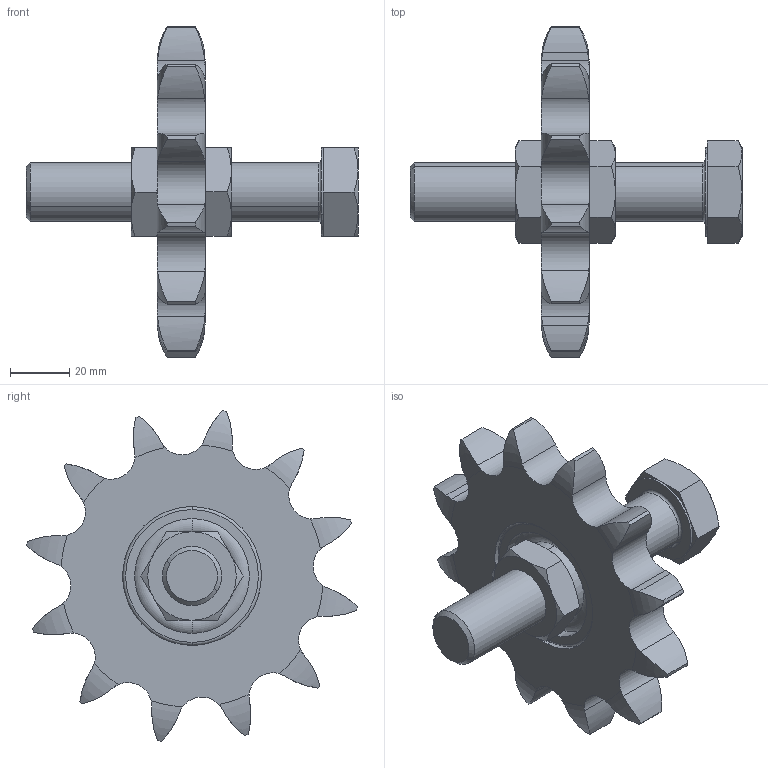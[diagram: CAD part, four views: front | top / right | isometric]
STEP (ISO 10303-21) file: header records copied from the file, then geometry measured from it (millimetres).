
FILE_DESCRIPTION (( 'STEP AP203' ), '1' );
FILE_NAME ('R 1 M20 cod. 94062521.STEP', '2017-07-25T13:43:33', ( '' ), ( '' ), 'SwSTEP 2.0', 'SolidWorks 2016', '' );
FILE_SCHEMA (( 'CONFIG_CONTROL_DESIGN' ));
Length unit declared in the file: millimetre
Products named in the file (5): ISO 4017 - M20 x 100-C_ISO 4017 - M20 x 100-C; ISO - 4035 - M20 - N_ISO - 4035 - M20 - N; CU. 47-20-14_SKF - 6204 - 10,SI,NC,10_68; R 1 M20 cod. 94062521; 1S Z12 C47_Chain wheel ISO - 12Z 16B-1 --12SA48.0N
Assembly tree (5 placements, depth 2):
  R 1 M20 cod. 94062521
    1S Z12 C47_Chain wheel ISO - 12Z 16B-1 --12SA48.0N
    CU. 47-20-14_SKF - 6204 - 10,SI,NC,10_68
    ISO 4017 - M20 x 100-C_ISO 4017 - M20 x 100-C
    ISO - 4035 - M20 - N_ISO - 4035 - M20 - N  x2
Bounding box: 112.5 x 112.09 x 112.09 mm (x, y, z)
Volume: 149892.7 mm3; surface area: 41792.9 mm2
Topology: 5 solids, 5 shells, 196 faces, 479 edges, 296 vertices
Faces by surface type: cylinder 81, cone 40, torus 38, plane 37
Entity records: 6058 total; most frequent: CARTESIAN_POINT 1629, ORIENTED_EDGE 838, DIRECTION 803, EDGE_CURVE 419, AXIS2_PLACEMENT_3D 348, VERTEX_POINT 262, EDGE_LOOP 177, CIRCLE 172
